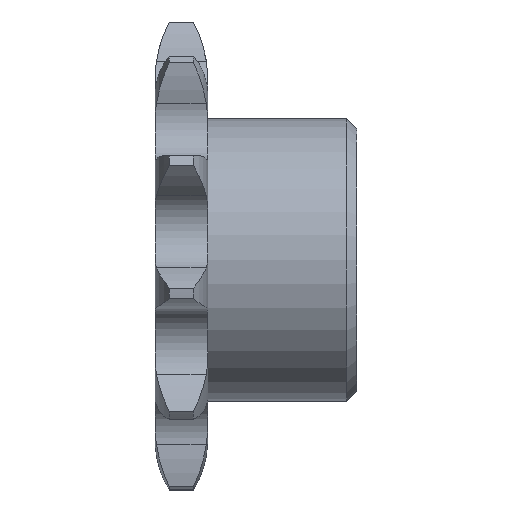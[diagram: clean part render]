
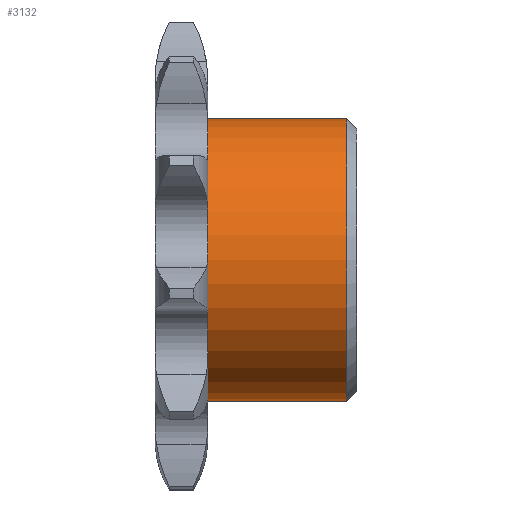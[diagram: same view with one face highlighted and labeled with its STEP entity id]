
A CAD part, top view. The second image highlights one B-rep face of the part: STEP entity #3132.
In plain terms, the highlighted cylindrical face has radius 7 mm (diameter 14 mm), a full revolution.
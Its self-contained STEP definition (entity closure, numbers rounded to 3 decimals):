
#221=CYLINDRICAL_SURFACE('',#3475,7.);
#384=FACE_OUTER_BOUND('',#555,.T.);
#555=EDGE_LOOP('',(#2903,#2904,#2905,#2906));
#713=CIRCLE('',#3474,7.);
#714=CIRCLE('',#3476,7.);
#944=LINE('',#5723,#1174);
#1174=VECTOR('',#4347,7.);
#1488=VERTEX_POINT('',#5718);
#1489=VERTEX_POINT('',#5721);
#1960=EDGE_CURVE('',#1488,#1488,#713,.T.);
#1961=EDGE_CURVE('',#1489,#1489,#714,.T.);
#1962=EDGE_CURVE('',#1489,#1488,#944,.T.);
#2903=ORIENTED_EDGE('',*,*,#1961,.F.);
#2904=ORIENTED_EDGE('',*,*,#1962,.T.);
#2905=ORIENTED_EDGE('',*,*,#1960,.T.);
#2906=ORIENTED_EDGE('',*,*,#1962,.F.);
#3132=ADVANCED_FACE('',(#384),#221,.T.);
#3474=AXIS2_PLACEMENT_3D('',#5719,#4341,#4342);
#3475=AXIS2_PLACEMENT_3D('',#5720,#4343,#4344);
#3476=AXIS2_PLACEMENT_3D('',#5722,#4345,#4346);
#4341=DIRECTION('center_axis',(1.,0.,0.));
#4342=DIRECTION('ref_axis',(0.,0.,-1.));
#4343=DIRECTION('center_axis',(1.,0.,0.));
#4344=DIRECTION('ref_axis',(0.,1.,0.));
#4345=DIRECTION('center_axis',(1.,0.,0.));
#4346=DIRECTION('ref_axis',(0.,0.,-1.));
#4347=DIRECTION('',(-1.,0.,0.));
#5718=CARTESIAN_POINT('',(2.6,-7.,0.));
#5719=CARTESIAN_POINT('Origin',(2.6,0.,0.));
#5720=CARTESIAN_POINT('Origin',(6.05,0.,0.));
#5721=CARTESIAN_POINT('',(9.5,-7.,0.));
#5722=CARTESIAN_POINT('Origin',(9.5,0.,0.));
#5723=CARTESIAN_POINT('',(6.05,-7.,0.));
